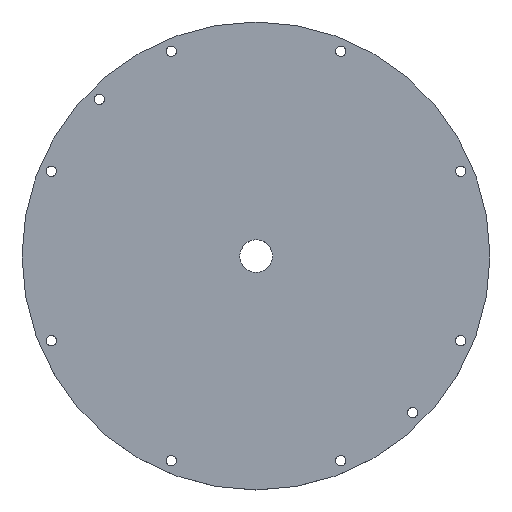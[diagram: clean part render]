
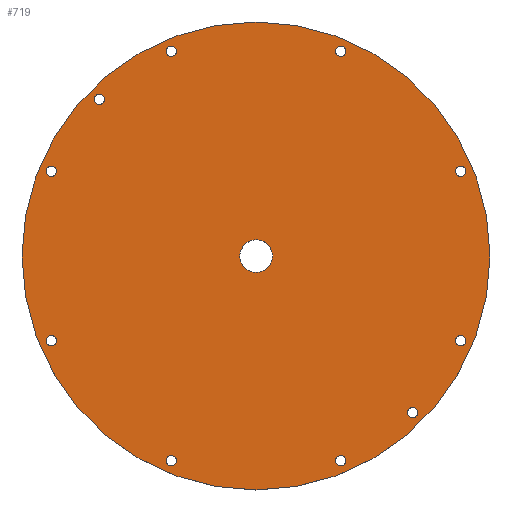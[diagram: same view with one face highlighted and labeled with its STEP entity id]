
A CAD part, top view. The second image highlights one B-rep face of the part: STEP entity #719.
In plain terms, the highlighted planar face has unit normal (0, 0, 1).
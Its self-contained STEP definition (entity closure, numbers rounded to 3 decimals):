
#18=FACE_BOUND('',#159,.T.);
#19=FACE_BOUND('',#160,.T.);
#20=FACE_BOUND('',#161,.T.);
#21=FACE_BOUND('',#162,.T.);
#22=FACE_BOUND('',#163,.T.);
#23=FACE_BOUND('',#164,.T.);
#24=FACE_BOUND('',#165,.T.);
#25=FACE_BOUND('',#166,.T.);
#26=FACE_BOUND('',#167,.T.);
#27=FACE_BOUND('',#168,.T.);
#28=FACE_BOUND('',#169,.T.);
#64=PLANE('',#804);
#113=FACE_OUTER_BOUND('',#158,.T.);
#158=EDGE_LOOP('',(#579));
#159=EDGE_LOOP('',(#580));
#160=EDGE_LOOP('',(#581));
#161=EDGE_LOOP('',(#582));
#162=EDGE_LOOP('',(#583));
#163=EDGE_LOOP('',(#584));
#164=EDGE_LOOP('',(#585));
#165=EDGE_LOOP('',(#586));
#166=EDGE_LOOP('',(#587));
#167=EDGE_LOOP('',(#588));
#168=EDGE_LOOP('',(#589));
#169=EDGE_LOOP('',(#590));
#290=CIRCLE('',#751,5.25);
#318=CIRCLE('',#805,75.);
#319=CIRCLE('',#806,1.65);
#320=CIRCLE('',#807,1.65);
#321=CIRCLE('',#808,1.65);
#322=CIRCLE('',#809,1.65);
#323=CIRCLE('',#810,1.65);
#324=CIRCLE('',#811,1.65);
#325=CIRCLE('',#812,1.65);
#326=CIRCLE('',#813,1.65);
#327=CIRCLE('',#814,1.65);
#328=CIRCLE('',#815,1.65);
#342=VERTEX_POINT('',#1073);
#390=VERTEX_POINT('',#1198);
#391=VERTEX_POINT('',#1200);
#392=VERTEX_POINT('',#1202);
#393=VERTEX_POINT('',#1204);
#394=VERTEX_POINT('',#1206);
#395=VERTEX_POINT('',#1208);
#396=VERTEX_POINT('',#1210);
#397=VERTEX_POINT('',#1212);
#398=VERTEX_POINT('',#1214);
#399=VERTEX_POINT('',#1216);
#400=VERTEX_POINT('',#1218);
#415=EDGE_CURVE('',#342,#342,#290,.T.);
#465=EDGE_CURVE('',#390,#390,#318,.T.);
#466=EDGE_CURVE('',#391,#391,#319,.T.);
#467=EDGE_CURVE('',#392,#392,#320,.T.);
#468=EDGE_CURVE('',#393,#393,#321,.T.);
#469=EDGE_CURVE('',#394,#394,#322,.T.);
#470=EDGE_CURVE('',#395,#395,#323,.T.);
#471=EDGE_CURVE('',#396,#396,#324,.T.);
#472=EDGE_CURVE('',#397,#397,#325,.T.);
#473=EDGE_CURVE('',#398,#398,#326,.T.);
#474=EDGE_CURVE('',#399,#399,#327,.T.);
#475=EDGE_CURVE('',#400,#400,#328,.T.);
#579=ORIENTED_EDGE('',*,*,#465,.T.);
#580=ORIENTED_EDGE('',*,*,#415,.T.);
#581=ORIENTED_EDGE('',*,*,#466,.T.);
#582=ORIENTED_EDGE('',*,*,#467,.T.);
#583=ORIENTED_EDGE('',*,*,#468,.T.);
#584=ORIENTED_EDGE('',*,*,#469,.T.);
#585=ORIENTED_EDGE('',*,*,#470,.T.);
#586=ORIENTED_EDGE('',*,*,#471,.T.);
#587=ORIENTED_EDGE('',*,*,#472,.T.);
#588=ORIENTED_EDGE('',*,*,#473,.T.);
#589=ORIENTED_EDGE('',*,*,#474,.T.);
#590=ORIENTED_EDGE('',*,*,#475,.T.);
#719=ADVANCED_FACE('',(#113,#18,#19,#20,#21,#22,#23,#24,#25,#26,#27,#28),
#64,.T.);
#751=AXIS2_PLACEMENT_3D('',#1075,#850,#851);
#804=AXIS2_PLACEMENT_3D('',#1197,#978,#979);
#805=AXIS2_PLACEMENT_3D('',#1199,#980,#981);
#806=AXIS2_PLACEMENT_3D('',#1201,#982,#983);
#807=AXIS2_PLACEMENT_3D('',#1203,#984,#985);
#808=AXIS2_PLACEMENT_3D('',#1205,#986,#987);
#809=AXIS2_PLACEMENT_3D('',#1207,#988,#989);
#810=AXIS2_PLACEMENT_3D('',#1209,#990,#991);
#811=AXIS2_PLACEMENT_3D('',#1211,#992,#993);
#812=AXIS2_PLACEMENT_3D('',#1213,#994,#995);
#813=AXIS2_PLACEMENT_3D('',#1215,#996,#997);
#814=AXIS2_PLACEMENT_3D('',#1217,#998,#999);
#815=AXIS2_PLACEMENT_3D('',#1219,#1000,#1001);
#850=DIRECTION('center_axis',(0.,0.,-1.));
#851=DIRECTION('ref_axis',(1.,0.,0.));
#978=DIRECTION('center_axis',(0.,0.,1.));
#979=DIRECTION('ref_axis',(-1.,0.,0.));
#980=DIRECTION('center_axis',(0.,0.,1.));
#981=DIRECTION('ref_axis',(-1.,0.,0.));
#982=DIRECTION('center_axis',(0.,0.,-1.));
#983=DIRECTION('ref_axis',(-1.,0.,0.));
#984=DIRECTION('center_axis',(0.,0.,-1.));
#985=DIRECTION('ref_axis',(-1.,0.,0.));
#986=DIRECTION('center_axis',(0.,0.,-1.));
#987=DIRECTION('ref_axis',(-1.,0.,0.));
#988=DIRECTION('center_axis',(0.,0.,-1.));
#989=DIRECTION('ref_axis',(-1.,0.,0.));
#990=DIRECTION('center_axis',(0.,0.,-1.));
#991=DIRECTION('ref_axis',(-1.,0.,0.));
#992=DIRECTION('center_axis',(0.,0.,-1.));
#993=DIRECTION('ref_axis',(-1.,0.,0.));
#994=DIRECTION('center_axis',(0.,0.,-1.));
#995=DIRECTION('ref_axis',(-1.,0.,0.));
#996=DIRECTION('center_axis',(0.,0.,-1.));
#997=DIRECTION('ref_axis',(-1.,0.,0.));
#998=DIRECTION('center_axis',(0.,0.,-1.));
#999=DIRECTION('ref_axis',(-1.,0.,0.));
#1000=DIRECTION('center_axis',(0.,0.,-1.));
#1001=DIRECTION('ref_axis',(-1.,0.,0.));
#1073=CARTESIAN_POINT('',(-5.184,-0.058,8.));
#1075=CARTESIAN_POINT('Origin',(0.066,-0.058,
8.));
#1197=CARTESIAN_POINT('Origin',(0.,0.,8.));
#1198=CARTESIAN_POINT('',(-75.,0.,8.));
#1199=CARTESIAN_POINT('Origin',(0.,0.,8.));
#1200=CARTESIAN_POINT('',(-28.821,65.595,8.));
#1201=CARTESIAN_POINT('Origin',(-27.171,65.595,8.));
#1202=CARTESIAN_POINT('',(-51.855,50.205,8.));
#1203=CARTESIAN_POINT('Origin',(-50.205,50.205,8.));
#1204=CARTESIAN_POINT('',(-28.821,-65.595,8.));
#1205=CARTESIAN_POINT('Origin',(-27.171,-65.595,8.));
#1206=CARTESIAN_POINT('',(63.945,-27.171,8.));
#1207=CARTESIAN_POINT('Origin',(65.595,-27.171,8.));
#1208=CARTESIAN_POINT('',(48.555,-50.205,8.));
#1209=CARTESIAN_POINT('Origin',(50.205,-50.205,8.));
#1210=CARTESIAN_POINT('',(-67.245,27.171,8.));
#1211=CARTESIAN_POINT('Origin',(-65.595,27.171,8.));
#1212=CARTESIAN_POINT('',(25.521,-65.595,8.));
#1213=CARTESIAN_POINT('Origin',(27.171,-65.595,8.));
#1214=CARTESIAN_POINT('',(25.521,65.595,8.));
#1215=CARTESIAN_POINT('Origin',(27.171,65.595,8.));
#1216=CARTESIAN_POINT('',(-67.245,-27.171,8.));
#1217=CARTESIAN_POINT('Origin',(-65.595,-27.171,8.));
#1218=CARTESIAN_POINT('',(63.945,27.171,8.));
#1219=CARTESIAN_POINT('Origin',(65.595,27.171,8.));
